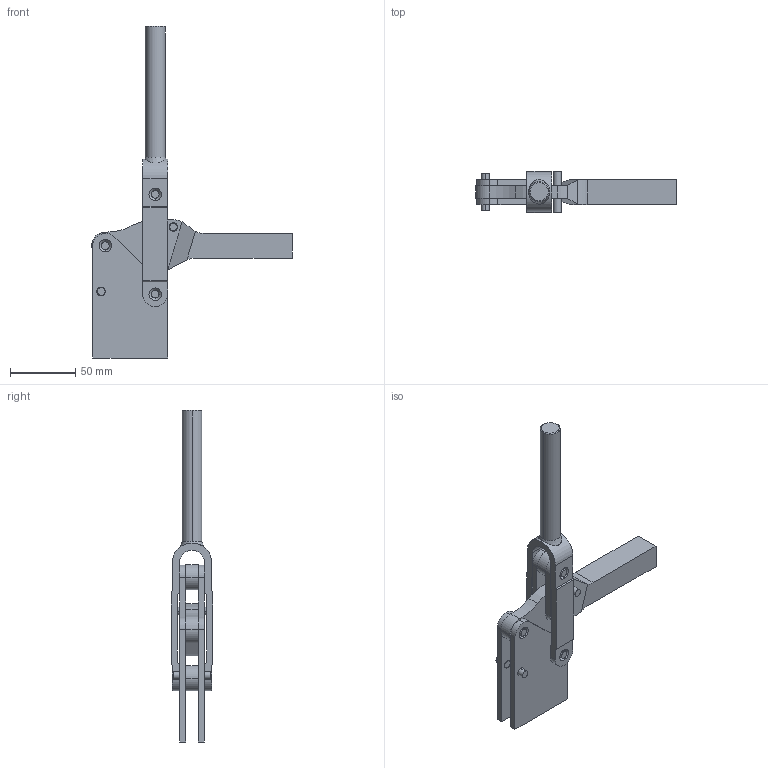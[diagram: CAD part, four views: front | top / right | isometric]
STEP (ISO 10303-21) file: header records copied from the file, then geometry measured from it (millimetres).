
FILE_DESCRIPTION( ( '' ), '1' );
FILE_NAME( 'C:\Documents and Settings\Richard Grenzke\My Documents\Wolverine Company Data\WOLVERINE CD 5_17_05\SOLIDS STEP\hold_down\cq910s.stp', ' ', ( '' ), ( '' ), 'ACIS Interop R16', 'Kubotek KeyCreator V5.5.1 (0454)', ' ' );
FILE_SCHEMA( ( 'CONFIG_CONTROL_DESIGN' ) );
Length unit declared in the file: inch
Products named in the file (16): 1; 2; 3; 4; 5; 6; 7; 8; 9; 10; 11; 12; 13; 14; 15; 16
Bounding box: 153.29 x 31.75 x 253.53 mm (x, y, z)
Volume: 149763.7 mm3; surface area: 60610.5 mm2
Topology: 14 solids, 14 shells, 182 faces, 485 edges, 331 vertices
Faces by surface type: cylinder 82, plane 76, cone 22, torus 2
Entity records: 6664 total; most frequent: CARTESIAN_POINT 1110, DIRECTION 1108, ORIENTED_EDGE 970, EDGE_CURVE 485, AXIS2_PLACEMENT_3D 435, VERTEX_POINT 331, LINE 238, VECTOR 238
